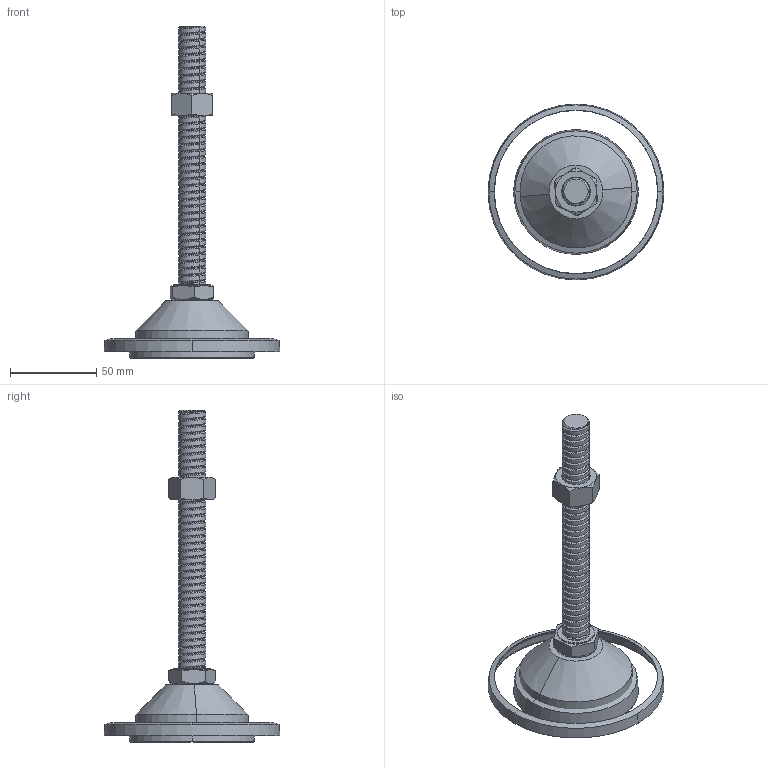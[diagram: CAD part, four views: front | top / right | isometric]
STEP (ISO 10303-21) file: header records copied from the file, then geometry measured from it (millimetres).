
FILE_DESCRIPTION (( 'STEP AP203' ), '1' );
FILE_NAME ('F-106-1-16-L2.STEP', '2015-11-24T02:10:45', ( '' ), ( '' ), 'SwSTEP 2.0', 'SolidWorks 2014', '' );
FILE_SCHEMA (( 'CONFIG_CONTROL_DESIGN' ));
Length unit declared in the file: millimetre
Products named in the file (5): F-106-1-16-L2; 70橡膠止滑墊-1-1; 70圓腳座-3-1; DS-M16X150L-12調整螺絲(壓花)-1; M16螺帽-5
Assembly tree (4 placements, depth 2):
  F-106-1-16-L2
    70橡膠止滑墊-1-1
    70圓腳座-3-1
    DS-M16X150L-12調整螺絲(壓花)-1
    M16螺帽-5
Bounding box: 102.01 x 102.01 x 192.5 mm (x, y, z)
Volume: 114515.7 mm3; surface area: 44876.3 mm2
Topology: 5 solids, 5 shells, 247 faces, 600 edges, 375 vertices
Faces by surface type: cylinder 91, cone 63, bspline 45, plane 42, torus 4, sphere 2
Entity records: 18635 total; most frequent: CARTESIAN_POINT 13230, ORIENTED_EDGE 1186, DIRECTION 851, EDGE_CURVE 593, VERTEX_POINT 372, AXIS2_PLACEMENT_3D 330, EDGE_LOOP 267, ADVANCED_FACE 247
